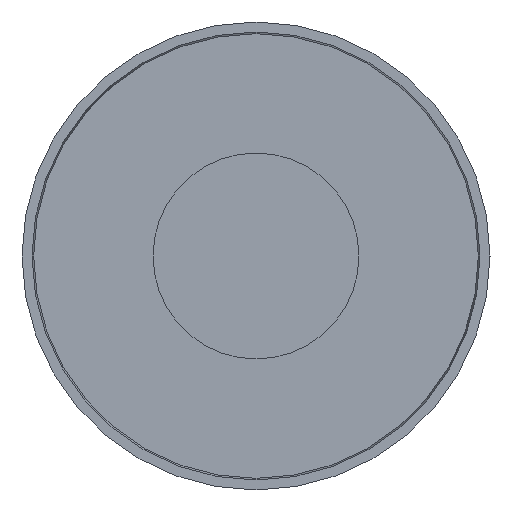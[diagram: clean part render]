
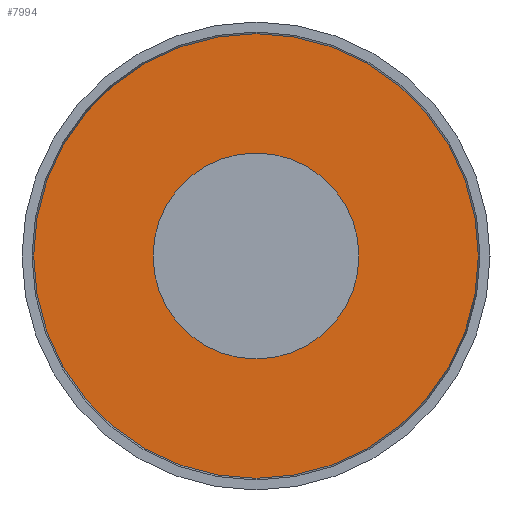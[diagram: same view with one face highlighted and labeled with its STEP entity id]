
A CAD part, left-side view. The second image highlights one B-rep face of the part: STEP entity #7994.
In plain terms, the highlighted planar face has unit normal (-1, 0, 0).
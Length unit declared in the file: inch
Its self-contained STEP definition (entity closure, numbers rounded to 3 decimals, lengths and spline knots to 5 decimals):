
#239 = DIRECTION ( 'NONE',  ( 0., 0., 1. ) ) ;
#1390 = DIRECTION ( 'NONE',  ( -1., 0., 0. ) ) ;
#1439 = CIRCLE ( 'NONE', #9599, 0.11 ) ;
#1468 = DIRECTION ( 'NONE',  ( -1., 0., 0. ) ) ;
#1540 = PLANE ( 'NONE',  #8338 ) ;
#1698 = FACE_BOUND ( 'NONE', #4838, .T. ) ;
#2267 = AXIS2_PLACEMENT_3D ( 'NONE', #8756, #3878, #11629 ) ;
#2370 = EDGE_CURVE ( 'NONE', #5617, #6847, #5686, .T. ) ;
#3092 = FACE_OUTER_BOUND ( 'NONE', #8784, .T. ) ;
#3878 = DIRECTION ( 'NONE',  ( -1., 0., 0. ) ) ;
#4096 = CIRCLE ( 'NONE', #15944, 0.11 ) ;
#4838 = EDGE_LOOP ( 'NONE', ( #15655, #15012 ) ) ;
#5343 = CARTESIAN_POINT ( 'NONE',  ( 0., 0., -0.11 ) ) ;
#5404 = DIRECTION ( 'NONE',  ( 0., 0., 1. ) ) ;
#5617 = VERTEX_POINT ( 'NONE', #7133 ) ;
#5686 = CIRCLE ( 'NONE', #8600, 0.2375 ) ;
#5728 = CARTESIAN_POINT ( 'NONE',  ( 0., 0., 0. ) ) ;
#6417 = CARTESIAN_POINT ( 'NONE',  ( 0., 0., 0. ) ) ;
#6482 = CIRCLE ( 'NONE', #2267, 0.2375 ) ;
#6837 = VERTEX_POINT ( 'NONE', #14210 ) ;
#6847 = VERTEX_POINT ( 'NONE', #14888 ) ;
#7133 = CARTESIAN_POINT ( 'NONE',  ( 0., 0., -0.2375 ) ) ;
#7314 = ORIENTED_EDGE ( 'NONE', *, *, #7468, .T. ) ;
#7468 = EDGE_CURVE ( 'NONE', #6847, #5617, #6482, .T. ) ;
#7964 = DIRECTION ( 'NONE',  ( -1., 0., 0. ) ) ;
#7994 = ADVANCED_FACE ( 'NONE', ( #3092, #1698 ), #1540, .F. ) ;
#8056 = DIRECTION ( 'NONE',  ( 1., 0., 0. ) ) ;
#8338 = AXIS2_PLACEMENT_3D ( 'NONE', #14301, #8056, #15634 ) ;
#8600 = AXIS2_PLACEMENT_3D ( 'NONE', #5728, #7964, #5404 ) ;
#8756 = CARTESIAN_POINT ( 'NONE',  ( 0., 0., 0. ) ) ;
#8784 = EDGE_LOOP ( 'NONE', ( #7314, #12624 ) ) ;
#9599 = AXIS2_PLACEMENT_3D ( 'NONE', #13925, #1390, #14002 ) ;
#11629 = DIRECTION ( 'NONE',  ( 0., 0., 1. ) ) ;
#12624 = ORIENTED_EDGE ( 'NONE', *, *, #2370, .T. ) ;
#13925 = CARTESIAN_POINT ( 'NONE',  ( 0., 0., 0. ) ) ;
#14002 = DIRECTION ( 'NONE',  ( 0., 0., 1. ) ) ;
#14210 = CARTESIAN_POINT ( 'NONE',  ( 0., 0., 0.11 ) ) ;
#14301 = CARTESIAN_POINT ( 'NONE',  ( 0., 0., 0. ) ) ;
#14888 = CARTESIAN_POINT ( 'NONE',  ( 0., 0., 0.2375 ) ) ;
#15012 = ORIENTED_EDGE ( 'NONE', *, *, #16101, .F. ) ;
#15190 = EDGE_CURVE ( 'NONE', #6837, #15292, #4096, .T. ) ;
#15292 = VERTEX_POINT ( 'NONE', #5343 ) ;
#15634 = DIRECTION ( 'NONE',  ( 0., 0., -1. ) ) ;
#15655 = ORIENTED_EDGE ( 'NONE', *, *, #15190, .F. ) ;
#15944 = AXIS2_PLACEMENT_3D ( 'NONE', #6417, #1468, #239 ) ;
#16101 = EDGE_CURVE ( 'NONE', #15292, #6837, #1439, .T. ) ;
